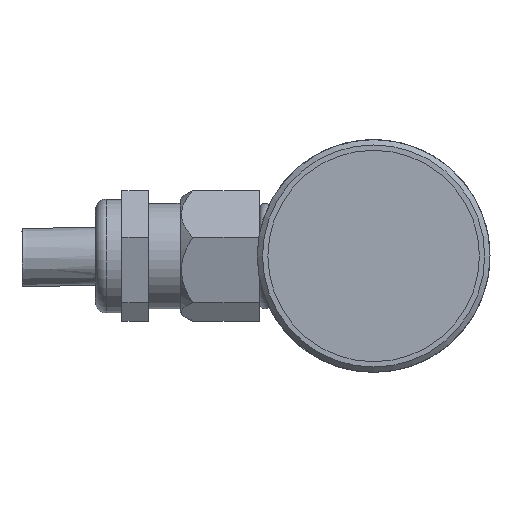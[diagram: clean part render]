
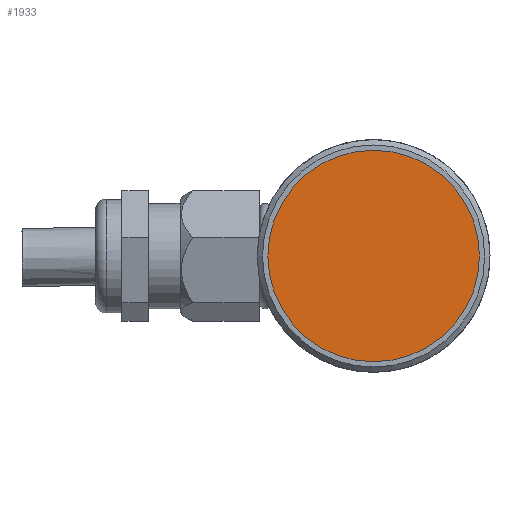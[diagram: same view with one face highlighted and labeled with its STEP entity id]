
A CAD part, left-side view. The second image highlights one B-rep face of the part: STEP entity #1933.
In plain terms, the highlighted planar face has unit normal (-1, 0, 0).
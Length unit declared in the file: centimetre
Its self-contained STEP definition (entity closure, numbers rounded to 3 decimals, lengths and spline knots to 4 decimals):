
#656=PLANE('',#2043);
#893=CIRCLE('',#2041,1.);
#984=VERTEX_POINT('',#2756);
#1168=EDGE_CURVE('',#984,#984,#893,.T.);
#1394=ORIENTED_EDGE('',*,*,#1168,.T.);
#1708=EDGE_LOOP('',(#1394));
#1823=FACE_BOUND('',#1708,.T.);
#1933=ADVANCED_FACE('',(#1823),#656,.T.);
#2041=AXIS2_PLACEMENT_3D('',#2755,#2235,#2236);
#2043=AXIS2_PLACEMENT_3D('',#2759,#2239,$);
#2235=DIRECTION('',(-1.,0.,0.));
#2236=DIRECTION('',(0.,0.,1.));
#2239=DIRECTION('',(-1.,0.,0.));
#2755=CARTESIAN_POINT('',(0.1,0.,0.));
#2756=CARTESIAN_POINT('',(0.1,0.,1.));
#2759=CARTESIAN_POINT('',(0.1,0.,0.));
